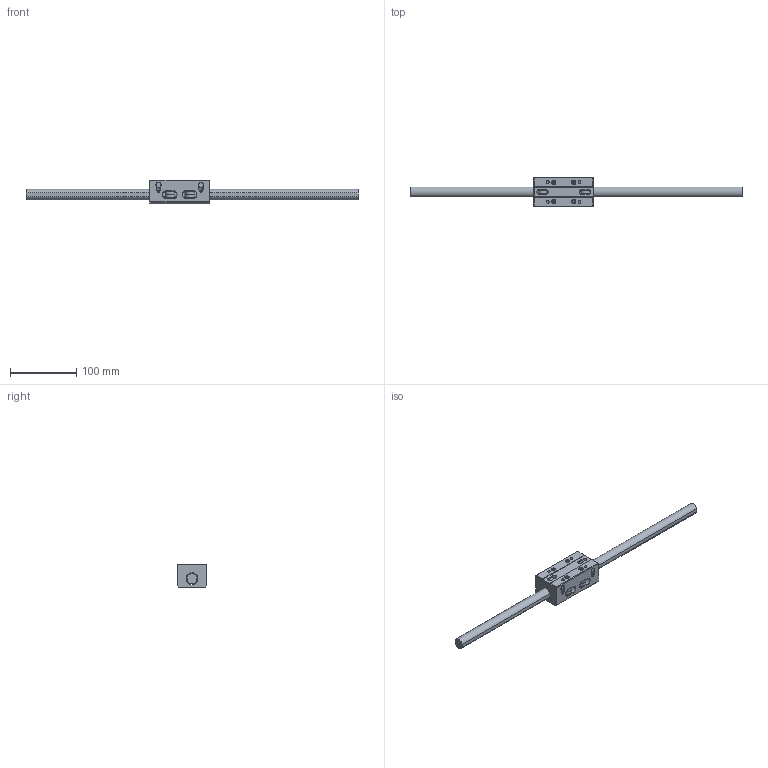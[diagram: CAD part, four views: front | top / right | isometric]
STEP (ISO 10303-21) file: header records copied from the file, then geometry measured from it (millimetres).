
FILE_DESCRIPTION((''),'2;1');
FILE_NAME('D:\製品 (図面)\カタログ用3D\リニアガイド関連\STEP形式\LTW\LTW16.stp','2010-06-02T16:52:16',('Tsuchiya'),(''),'Autodesk Inventor 10','Autodesk Inventor 10','');
FILE_SCHEMA(('AUTOMOTIVE_DESIGN { 1 0 10303 214 1 1 1 1 }'));
Length unit declared in the file: millimetre
Products named in the file (3): LTW16; LTW161; LTW162
Assembly tree (2 placements, depth 2):
  LTW16
    LTW161
    LTW162
Bounding box: 500 x 45 x 36 mm (x, y, z)
Volume: 204108.1 mm3; surface area: 58408.5 mm2
Topology: 2 solids, 2 shells, 299 faces, 711 edges, 456 vertices
Faces by surface type: bspline 137, plane 86, cylinder 45, cone 26, torus 5
Full cylindrical faces by diameter (mm): 4 x2, 4.134 x2, 5 x3, 5.5 x5, 6.5 x5, 8 x7, 13 x3, 14 x4, 15 x2, 18 x1
Entity records: 9495 total; most frequent: CARTESIAN_POINT 3827, ORIENTED_EDGE 1056, DIRECTION 988, EDGE_CURVE 528, EDGE_LOOP 512, VERTEX_POINT 404, AXIS2_PLACEMENT_3D 381, FACE_OUTER_BOUND 299
